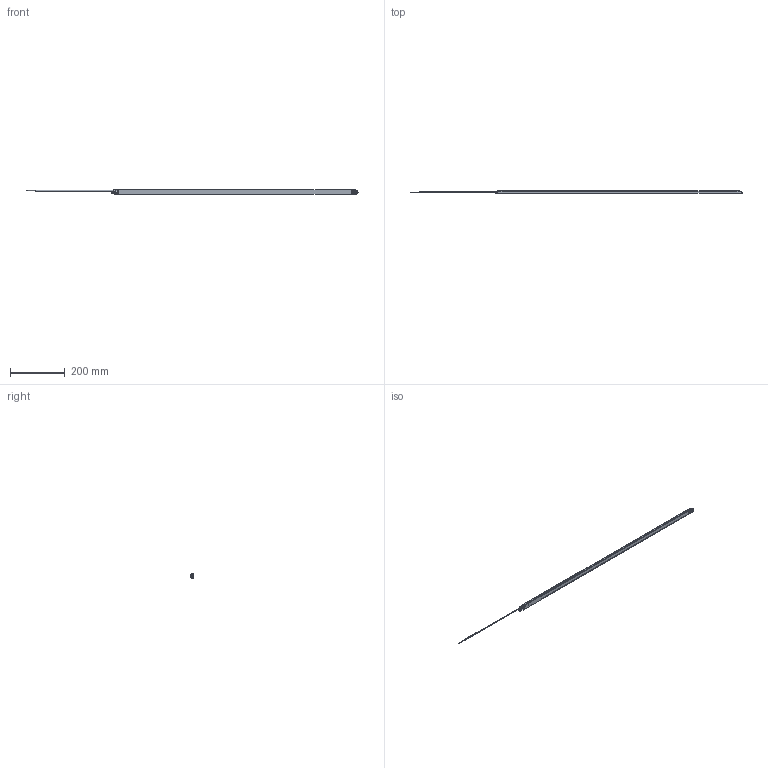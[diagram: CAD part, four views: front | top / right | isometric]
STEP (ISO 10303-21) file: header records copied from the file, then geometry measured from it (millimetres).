
FILE_DESCRIPTION (( 'STEP AP203' ), '1' );
FILE_NAME ('LAP900.STEP', '2021-12-20T08:14:46', ( '' ), ( '' ), 'SwSTEP 2.0', 'SolidWorks 2018', '' );
FILE_SCHEMA (( 'CONFIG_CONTROL_DESIGN' ));
Length unit declared in the file: millimetre
Products named in the file (8): 63202150; 63202151; 63202152; 63202157_Default.; 63202280_2.9mmX13mm; LAP900; 63202233; 63202234
Assembly tree (9 placements, depth 2):
  LAP900
    63202233
    63202234
    63202150
    63202151
    63202152  x2
    63202157_Default.
    63202280_2.9mmX13mm  x2
Bounding box: 1211.41 x 8.4 x 17.84 mm (x, y, z)
Volume: 56835.1 mm3; surface area: 100862.3 mm2
Topology: 16 solids, 16 shells, 430 faces, 1085 edges, 704 vertices
Faces by surface type: cylinder 142, plane 130, bspline 114, torus 24, cone 16, sphere 4
Entity records: 24695 total; most frequent: CARTESIAN_POINT 15365, ORIENTED_EDGE 1832, DIRECTION 1660, EDGE_CURVE 916, AXIS2_PLACEMENT_3D 626, VERTEX_POINT 596, LINE 408, VECTOR 408
